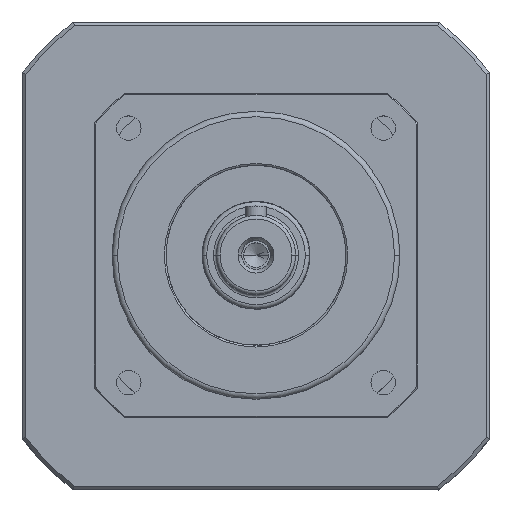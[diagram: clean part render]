
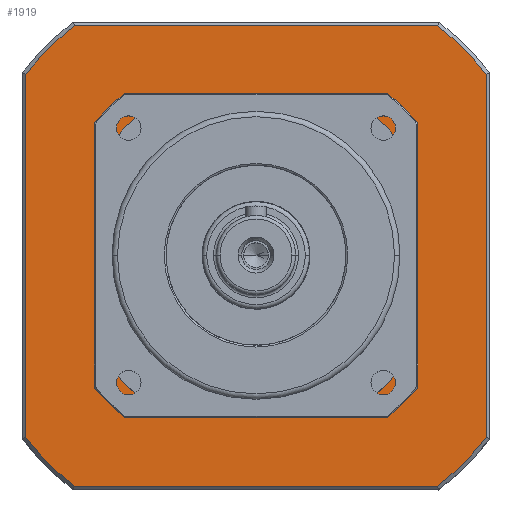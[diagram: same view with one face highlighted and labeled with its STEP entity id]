
A CAD part, top view. The second image highlights one B-rep face of the part: STEP entity #1919.
In plain terms, the highlighted planar face has unit normal (0, 0, 1).
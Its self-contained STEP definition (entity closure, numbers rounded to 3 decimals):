
#1919 = ADVANCED_FACE ( 'NONE', ( #16796, #16797 ), #9082, .T. ) ;
#3142 = ORIENTED_EDGE ( 'NONE', *, *, #7356, .T. ) ;
#3143 = ORIENTED_EDGE ( 'NONE', *, *, #7357, .T. ) ;
#3144 = ORIENTED_EDGE ( 'NONE', *, *, #7355, .T. ) ;
#3145 = ORIENTED_EDGE ( 'NONE', *, *, #7358, .T. ) ;
#3146 = ORIENTED_EDGE ( 'NONE', *, *, #7359, .T. ) ;
#3147 = ORIENTED_EDGE ( 'NONE', *, *, #7360, .T. ) ;
#3148 = ORIENTED_EDGE ( 'NONE', *, *, #7361, .T. ) ;
#3149 = ORIENTED_EDGE ( 'NONE', *, *, #7363, .T. ) ;
#3150 = ORIENTED_EDGE ( 'NONE', *, *, #7364, .F. ) ;
#3151 = ORIENTED_EDGE ( 'NONE', *, *, #7365, .F. ) ;
#3152 = ORIENTED_EDGE ( 'NONE', *, *, #7362, .F. ) ;
#3153 = ORIENTED_EDGE ( 'NONE', *, *, #7366, .F. ) ;
#3154 = ORIENTED_EDGE ( 'NONE', *, *, #7367, .F. ) ;
#3155 = ORIENTED_EDGE ( 'NONE', *, *, #7368, .F. ) ;
#3156 = ORIENTED_EDGE ( 'NONE', *, *, #7369, .F. ) ;
#3157 = ORIENTED_EDGE ( 'NONE', *, *, #7370, .F. ) ;
#6074 = CARTESIAN_POINT ( 'NONE',  ( 50.457, -64.003, -90.5 ) ) ;
#6076 = CARTESIAN_POINT ( 'NONE',  ( 63.997, -50.464, -90.5 ) ) ;
#6077 = CARTESIAN_POINT ( 'NONE',  ( 64.003, 50.457, -90.5 ) ) ;
#6079 = CARTESIAN_POINT ( 'NONE',  ( 50.464, 63.997, -90.5 ) ) ;
#6081 = CARTESIAN_POINT ( 'NONE',  ( -50.457, 64.003, -90.5 ) ) ;
#6082 = CARTESIAN_POINT ( 'NONE',  ( -63.997, 50.464, -90.5 ) ) ;
#6084 = CARTESIAN_POINT ( 'NONE',  ( -64.003, -50.457, -90.5 ) ) ;
#6086 = CARTESIAN_POINT ( 'NONE',  ( -50.464, -63.997, -90.5 ) ) ;
#6088 = CARTESIAN_POINT ( 'NONE',  ( -44.999, 24.002, -90.5 ) ) ;
#6089 = CARTESIAN_POINT ( 'NONE',  ( -45.001, -23.998, -90.5 ) ) ;
#6091 = CARTESIAN_POINT ( 'NONE',  ( -23.998, 45.001, -90.5 ) ) ;
#6093 = CARTESIAN_POINT ( 'NONE',  ( 24.002, 44.999, -90.5 ) ) ;
#6094 = CARTESIAN_POINT ( 'NONE',  ( 45.001, 23.998, -90.5 ) ) ;
#6096 = CARTESIAN_POINT ( 'NONE',  ( 44.999, -24.002, -90.5 ) ) ;
#6098 = CARTESIAN_POINT ( 'NONE',  ( 23.998, -45.001, -90.5 ) ) ;
#6099 = CARTESIAN_POINT ( 'NONE',  ( -24.002, -44.999, -90.5 ) ) ;
#7355 = EDGE_CURVE ( 'NONE', #14575, #14576, #18059, .T. ) ;
#7356 = EDGE_CURVE ( 'NONE', #14574, #14575, #9511, .T. ) ;
#7357 = EDGE_CURVE ( 'NONE', #14576, #14577, #9509, .T. ) ;
#7358 = EDGE_CURVE ( 'NONE', #14577, #14578, #18060, .T. ) ;
#7359 = EDGE_CURVE ( 'NONE', #14578, #14579, #9507, .T. ) ;
#7360 = EDGE_CURVE ( 'NONE', #14579, #14580, #18061, .T. ) ;
#7361 = EDGE_CURVE ( 'NONE', #14580, #14581, #9505, .T. ) ;
#7362 = EDGE_CURVE ( 'NONE', #14584, #14582, #9514, .T. ) ;
#7363 = EDGE_CURVE ( 'NONE', #14581, #14574, #18062, .T. ) ;
#7364 = EDGE_CURVE ( 'NONE', #14582, #14583, #18063, .T. ) ;
#7365 = EDGE_CURVE ( 'NONE', #14585, #14584, #18064, .T. ) ;
#7366 = EDGE_CURVE ( 'NONE', #14586, #14585, #9523, .T. ) ;
#7367 = EDGE_CURVE ( 'NONE', #14587, #14586, #18065, .T. ) ;
#7368 = EDGE_CURVE ( 'NONE', #14588, #14587, #9527, .T. ) ;
#7369 = EDGE_CURVE ( 'NONE', #14589, #14588, #18066, .T. ) ;
#7370 = EDGE_CURVE ( 'NONE', #14583, #14589, #9531, .T. ) ;
#8716 = AXIS2_PLACEMENT_3D ( 'NONE', #9083, #9084, #9085 ) ;
#9082 = PLANE ( 'NONE',  #8716 ) ;
#9083 = CARTESIAN_POINT ( 'NONE',  ( 0., 0., -90.5 ) ) ;
#9084 = DIRECTION ( 'NONE',  ( 0., 0., 1. ) ) ;
#9085 = DIRECTION ( 'NONE',  ( 1., 0., 0. ) ) ;
#9505 = CIRCLE ( 'NONE', #9519, 81.5 ) ;
#9507 = CIRCLE ( 'NONE', #9517, 81.5 ) ;
#9509 = CIRCLE ( 'NONE', #9515, 81.5 ) ;
#9511 = CIRCLE ( 'NONE', #9513, 81.5 ) ;
#9512 = VECTOR ( 'NONE', #18609, 1000. ) ;
#9513 = AXIS2_PLACEMENT_3D ( 'NONE', #18610, #18611, #18612 ) ;
#9514 = CIRCLE ( 'NONE', #9520, 51. ) ;
#9515 = AXIS2_PLACEMENT_3D ( 'NONE', #18626, #18627, #18628 ) ;
#9516 = VECTOR ( 'NONE', #18630, 1000. ) ;
#9517 = AXIS2_PLACEMENT_3D ( 'NONE', #18631, #18632, #18633 ) ;
#9518 = VECTOR ( 'NONE', #18635, 1000. ) ;
#9519 = AXIS2_PLACEMENT_3D ( 'NONE', #18636, #18637, #18638 ) ;
#9520 = AXIS2_PLACEMENT_3D ( 'NONE', #18639, #18640, #18641 ) ;
#9521 = VECTOR ( 'NONE', #18643, 1000. ) ;
#9522 = VECTOR ( 'NONE', #18645, 1000. ) ;
#9523 = CIRCLE ( 'NONE', #9525, 51. ) ;
#9524 = VECTOR ( 'NONE', #18647, 1000. ) ;
#9525 = AXIS2_PLACEMENT_3D ( 'NONE', #18648, #18649, #18650 ) ;
#9527 = CIRCLE ( 'NONE', #9529, 51. ) ;
#9528 = VECTOR ( 'NONE', #18652, 1000. ) ;
#9529 = AXIS2_PLACEMENT_3D ( 'NONE', #18653, #18654, #18655 ) ;
#9531 = CIRCLE ( 'NONE', #9533, 51. ) ;
#9532 = VECTOR ( 'NONE', #18657, 1000. ) ;
#9533 = AXIS2_PLACEMENT_3D ( 'NONE', #18658, #18659, #18660 ) ;
#14574 = VERTEX_POINT ( 'NONE', #6074 ) ;
#14575 = VERTEX_POINT ( 'NONE', #6076 ) ;
#14576 = VERTEX_POINT ( 'NONE', #6077 ) ;
#14577 = VERTEX_POINT ( 'NONE', #6079 ) ;
#14578 = VERTEX_POINT ( 'NONE', #6081 ) ;
#14579 = VERTEX_POINT ( 'NONE', #6082 ) ;
#14580 = VERTEX_POINT ( 'NONE', #6084 ) ;
#14581 = VERTEX_POINT ( 'NONE', #6086 ) ;
#14582 = VERTEX_POINT ( 'NONE', #6088 ) ;
#14583 = VERTEX_POINT ( 'NONE', #6089 ) ;
#14584 = VERTEX_POINT ( 'NONE', #6091 ) ;
#14585 = VERTEX_POINT ( 'NONE', #6093 ) ;
#14586 = VERTEX_POINT ( 'NONE', #6094 ) ;
#14587 = VERTEX_POINT ( 'NONE', #6096 ) ;
#14588 = VERTEX_POINT ( 'NONE', #6098 ) ;
#14589 = VERTEX_POINT ( 'NONE', #6099 ) ;
#15630 = EDGE_LOOP ( 'NONE', ( #3142, #3144, #3143, #3145, #3146, #3147, #3148, #3149 ) ) ;
#15631 = EDGE_LOOP ( 'NONE', ( #3150, #3152, #3151, #3153, #3154, #3155, #3156, #3157 ) ) ;
#16796 = FACE_OUTER_BOUND ( 'NONE', #15630, .T. ) ;
#16797 = FACE_BOUND ( 'NONE', #15631, .T. ) ;
#18059 = LINE ( 'NONE', #18608, #9512 ) ;
#18060 = LINE ( 'NONE', #18629, #9516 ) ;
#18061 = LINE ( 'NONE', #18634, #9518 ) ;
#18062 = LINE ( 'NONE', #18642, #9521 ) ;
#18063 = LINE ( 'NONE', #18644, #9522 ) ;
#18064 = LINE ( 'NONE', #18646, #9524 ) ;
#18065 = LINE ( 'NONE', #18651, #9528 ) ;
#18066 = LINE ( 'NONE', #18656, #9532 ) ;
#18608 = CARTESIAN_POINT ( 'NONE',  ( 64., -0.003, -90.5 ) ) ;
#18609 = DIRECTION ( 'NONE',  ( 0., 1., 0. ) ) ;
#18610 = CARTESIAN_POINT ( 'NONE',  ( 0., 0., -90.5 ) ) ;
#18611 = DIRECTION ( 'NONE',  ( 0., 0., 1. ) ) ;
#18612 = DIRECTION ( 'NONE',  ( 1., 0., 0. ) ) ;
#18626 = CARTESIAN_POINT ( 'NONE',  ( 0., 0., -90.5 ) ) ;
#18627 = DIRECTION ( 'NONE',  ( 0., 0., 1. ) ) ;
#18628 = DIRECTION ( 'NONE',  ( 1., 0., 0. ) ) ;
#18629 = CARTESIAN_POINT ( 'NONE',  ( 0.003, 64., -90.5 ) ) ;
#18630 = DIRECTION ( 'NONE',  ( -1., 0., 0. ) ) ;
#18631 = CARTESIAN_POINT ( 'NONE',  ( 0., 0., -90.5 ) ) ;
#18632 = DIRECTION ( 'NONE',  ( 0., 0., 1. ) ) ;
#18633 = DIRECTION ( 'NONE',  ( 1., 0., 0. ) ) ;
#18634 = CARTESIAN_POINT ( 'NONE',  ( -64., 0.003, -90.5 ) ) ;
#18635 = DIRECTION ( 'NONE',  ( 0., -1., 0. ) ) ;
#18636 = CARTESIAN_POINT ( 'NONE',  ( 0., 0., -90.5 ) ) ;
#18637 = DIRECTION ( 'NONE',  ( 0., 0., 1. ) ) ;
#18638 = DIRECTION ( 'NONE',  ( 1., 0., 0. ) ) ;
#18639 = CARTESIAN_POINT ( 'NONE',  ( 0., 0., -90.5 ) ) ;
#18640 = DIRECTION ( 'NONE',  ( 0., 0., 1. ) ) ;
#18641 = DIRECTION ( 'NONE',  ( 1., 0., 0. ) ) ;
#18642 = CARTESIAN_POINT ( 'NONE',  ( -0.003, -64., -90.5 ) ) ;
#18643 = DIRECTION ( 'NONE',  ( 1., 0., 0. ) ) ;
#18644 = CARTESIAN_POINT ( 'NONE',  ( -44.999, 24.002, -90.5 ) ) ;
#18645 = DIRECTION ( 'NONE',  ( 0., -1., 0. ) ) ;
#18646 = CARTESIAN_POINT ( 'NONE',  ( -23.998, 45.001, -90.5 ) ) ;
#18647 = DIRECTION ( 'NONE',  ( -1., 0., 0. ) ) ;
#18648 = CARTESIAN_POINT ( 'NONE',  ( 0., 0., -90.5 ) ) ;
#18649 = DIRECTION ( 'NONE',  ( 0., 0., 1. ) ) ;
#18650 = DIRECTION ( 'NONE',  ( 1., 0., 0. ) ) ;
#18651 = CARTESIAN_POINT ( 'NONE',  ( 45.001, 23.998, -90.5 ) ) ;
#18652 = DIRECTION ( 'NONE',  ( 0., 1., 0. ) ) ;
#18653 = CARTESIAN_POINT ( 'NONE',  ( 0., 0., -90.5 ) ) ;
#18654 = DIRECTION ( 'NONE',  ( 0., 0., 1. ) ) ;
#18655 = DIRECTION ( 'NONE',  ( 1., 0., 0. ) ) ;
#18656 = CARTESIAN_POINT ( 'NONE',  ( -24.002, -44.999, -90.5 ) ) ;
#18657 = DIRECTION ( 'NONE',  ( 1., 0., 0. ) ) ;
#18658 = CARTESIAN_POINT ( 'NONE',  ( 0., 0., -90.5 ) ) ;
#18659 = DIRECTION ( 'NONE',  ( 0., 0., 1. ) ) ;
#18660 = DIRECTION ( 'NONE',  ( 1., 0., 0. ) ) ;
